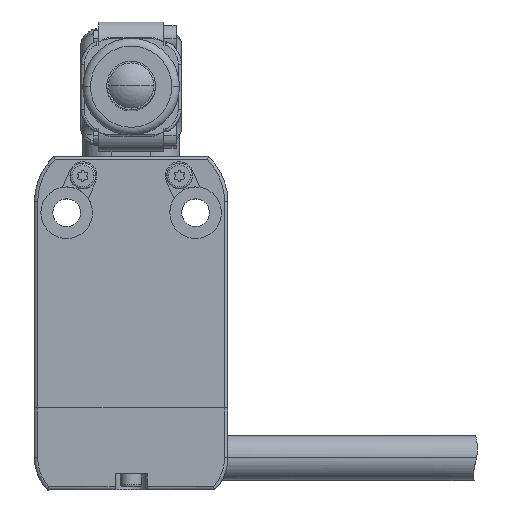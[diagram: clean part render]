
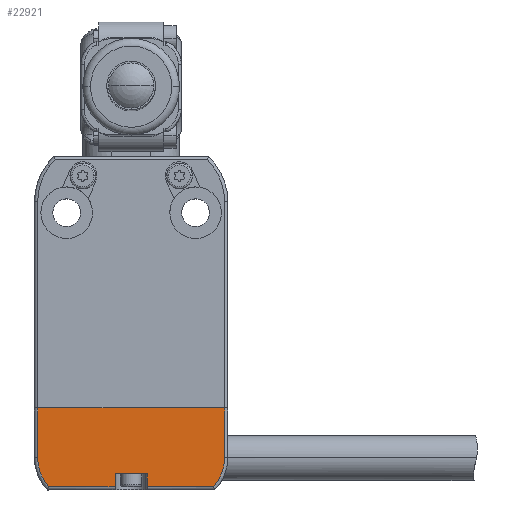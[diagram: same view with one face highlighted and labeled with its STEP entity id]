
A CAD part, top view. The second image highlights one B-rep face of the part: STEP entity #22921.
In plain terms, the highlighted planar face has unit normal (0, 0, 1).
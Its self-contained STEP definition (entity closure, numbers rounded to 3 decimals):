
#201 = AXIS2_PLACEMENT_3D ( 'NONE', #3582, #11727, #21432 ) ;
#302 = VERTEX_POINT ( 'NONE', #17597 ) ;
#584 = VECTOR ( 'NONE', #13073, 1000. ) ;
#620 = VECTOR ( 'NONE', #22788, 1000. ) ;
#627 = CARTESIAN_POINT ( 'NONE',  ( 14.5, 12.7, 8. ) ) ;
#1044 = DIRECTION ( 'NONE',  ( 0., -1., 0. ) ) ;
#1088 = CARTESIAN_POINT ( 'NONE',  ( 14.5, 5., 8. ) ) ;
#1626 = AXIS2_PLACEMENT_3D ( 'NONE', #23766, #9751, #15632 ) ;
#1661 = CARTESIAN_POINT ( 'NONE',  ( -12.781, 0.5, 8. ) ) ;
#1695 = DIRECTION ( 'NONE',  ( 0., 1., 0. ) ) ;
#1801 = LINE ( 'NONE', #21763, #2392 ) ;
#2392 = VECTOR ( 'NONE', #15713, 1000. ) ;
#2583 = LINE ( 'NONE', #16481, #620 ) ;
#3259 = ORIENTED_EDGE ( 'NONE', *, *, #10715, .T. ) ;
#3362 = EDGE_CURVE ( 'NONE', #302, #23062, #16917, .T. ) ;
#3582 = CARTESIAN_POINT ( 'NONE',  ( -7.75, 5., 8. ) ) ;
#4017 = CARTESIAN_POINT ( 'NONE',  ( -14.5, 5., 8. ) ) ;
#5012 = EDGE_CURVE ( 'NONE', #12478, #6142, #19903, .T. ) ;
#5394 = EDGE_CURVE ( 'NONE', #20341, #7567, #13726, .T. ) ;
#6142 = VERTEX_POINT ( 'NONE', #25248 ) ;
#6144 = LINE ( 'NONE', #23988, #17509 ) ;
#6796 = EDGE_CURVE ( 'NONE', #6142, #10996, #18628, .T. ) ;
#7284 = ORIENTED_EDGE ( 'NONE', *, *, #7384, .T. ) ;
#7289 = VECTOR ( 'NONE', #15711, 1000. ) ;
#7384 = EDGE_CURVE ( 'NONE', #9791, #25584, #6144, .T. ) ;
#7567 = VERTEX_POINT ( 'NONE', #627 ) ;
#8747 = CARTESIAN_POINT ( 'NONE',  ( -2.5, 0.5, 8. ) ) ;
#9017 = CARTESIAN_POINT ( 'NONE',  ( 7.75, 5., 8. ) ) ;
#9461 = VECTOR ( 'NONE', #21856, 1000. ) ;
#9555 = CARTESIAN_POINT ( 'NONE',  ( 14.5, 12.7, 8. ) ) ;
#9751 = DIRECTION ( 'NONE',  ( 0., 0., 1. ) ) ;
#9791 = VERTEX_POINT ( 'NONE', #20525 ) ;
#9875 = FACE_OUTER_BOUND ( 'NONE', #24163, .T. ) ;
#9904 = CARTESIAN_POINT ( 'NONE',  ( -14.5, 12.7, 8. ) ) ;
#10014 = ORIENTED_EDGE ( 'NONE', *, *, #16965, .T. ) ;
#10715 = EDGE_CURVE ( 'NONE', #10996, #23062, #1801, .T. ) ;
#10937 = EDGE_CURVE ( 'NONE', #25584, #20341, #13292, .T. ) ;
#10996 = VERTEX_POINT ( 'NONE', #1661 ) ;
#11295 = CARTESIAN_POINT ( 'NONE',  ( 2.5, 5., 8. ) ) ;
#11382 = CARTESIAN_POINT ( 'NONE',  ( -7.75, 2.5, 8. ) ) ;
#11582 = PLANE ( 'NONE',  #1626 ) ;
#11727 = DIRECTION ( 'NONE',  ( 0., 0., 1. ) ) ;
#11930 = DIRECTION ( 'NONE',  ( 1., 0., 0. ) ) ;
#12161 = ORIENTED_EDGE ( 'NONE', *, *, #6796, .T. ) ;
#12478 = VERTEX_POINT ( 'NONE', #9904 ) ;
#13073 = DIRECTION ( 'NONE',  ( 1., 0., 0. ) ) ;
#13120 = ORIENTED_EDGE ( 'NONE', *, *, #5394, .T. ) ;
#13292 = CIRCLE ( 'NONE', #19149, 6.75 ) ;
#13726 = LINE ( 'NONE', #9555, #9461 ) ;
#14155 = VECTOR ( 'NONE', #1695, 1000. ) ;
#15632 = DIRECTION ( 'NONE',  ( 1., 0., 0. ) ) ;
#15711 = DIRECTION ( 'NONE',  ( 0., -1., 0. ) ) ;
#15713 = DIRECTION ( 'NONE',  ( 1., 0., 0. ) ) ;
#15988 = VERTEX_POINT ( 'NONE', #21191 ) ;
#16481 = CARTESIAN_POINT ( 'NONE',  ( 15., 12.7, 8. ) ) ;
#16737 = ORIENTED_EDGE ( 'NONE', *, *, #23955, .T. ) ;
#16917 = LINE ( 'NONE', #24920, #25305 ) ;
#16965 = EDGE_CURVE ( 'NONE', #302, #15988, #16989, .T. ) ;
#16989 = LINE ( 'NONE', #11382, #584 ) ;
#17000 = DIRECTION ( 'NONE',  ( 0., 0., 1. ) ) ;
#17509 = VECTOR ( 'NONE', #11930, 1000. ) ;
#17578 = LINE ( 'NONE', #11295, #14155 ) ;
#17597 = CARTESIAN_POINT ( 'NONE',  ( -2.5, 2.5, 8. ) ) ;
#17653 = ORIENTED_EDGE ( 'NONE', *, *, #3362, .F. ) ;
#18628 = CIRCLE ( 'NONE', #201, 6.75 ) ;
#19149 = AXIS2_PLACEMENT_3D ( 'NONE', #9017, #17000, #24996 ) ;
#19556 = ORIENTED_EDGE ( 'NONE', *, *, #22285, .F. ) ;
#19903 = LINE ( 'NONE', #4017, #7289 ) ;
#20129 = ORIENTED_EDGE ( 'NONE', *, *, #10937, .T. ) ;
#20341 = VERTEX_POINT ( 'NONE', #1088 ) ;
#20525 = CARTESIAN_POINT ( 'NONE',  ( 2.5, 0.5, 8. ) ) ;
#21191 = CARTESIAN_POINT ( 'NONE',  ( 2.5, 2.5, 8. ) ) ;
#21432 = DIRECTION ( 'NONE',  ( 1., 0., 0. ) ) ;
#21763 = CARTESIAN_POINT ( 'NONE',  ( -2.5, 0.5, 8. ) ) ;
#21856 = DIRECTION ( 'NONE',  ( 0., 1., 0. ) ) ;
#22285 = EDGE_CURVE ( 'NONE', #9791, #15988, #17578, .T. ) ;
#22788 = DIRECTION ( 'NONE',  ( -1., 0., 0. ) ) ;
#22921 = ADVANCED_FACE ( 'NONE', ( #9875 ), #11582, .T. ) ;
#23062 = VERTEX_POINT ( 'NONE', #8747 ) ;
#23766 = CARTESIAN_POINT ( 'NONE',  ( -7.75, 5., 8. ) ) ;
#23934 = CARTESIAN_POINT ( 'NONE',  ( 12.781, 0.5, 8. ) ) ;
#23955 = EDGE_CURVE ( 'NONE', #7567, #12478, #2583, .T. ) ;
#23988 = CARTESIAN_POINT ( 'NONE',  ( 13., 0.5, 8. ) ) ;
#24163 = EDGE_LOOP ( 'NONE', ( #19556, #7284, #20129, #13120, #16737, #24405, #12161, #3259, #17653, #10014 ) ) ;
#24405 = ORIENTED_EDGE ( 'NONE', *, *, #5012, .T. ) ;
#24920 = CARTESIAN_POINT ( 'NONE',  ( -2.5, 5., 8. ) ) ;
#24996 = DIRECTION ( 'NONE',  ( 1., 0., 0. ) ) ;
#25248 = CARTESIAN_POINT ( 'NONE',  ( -14.5, 5., 8. ) ) ;
#25305 = VECTOR ( 'NONE', #1044, 1000. ) ;
#25584 = VERTEX_POINT ( 'NONE', #23934 ) ;
